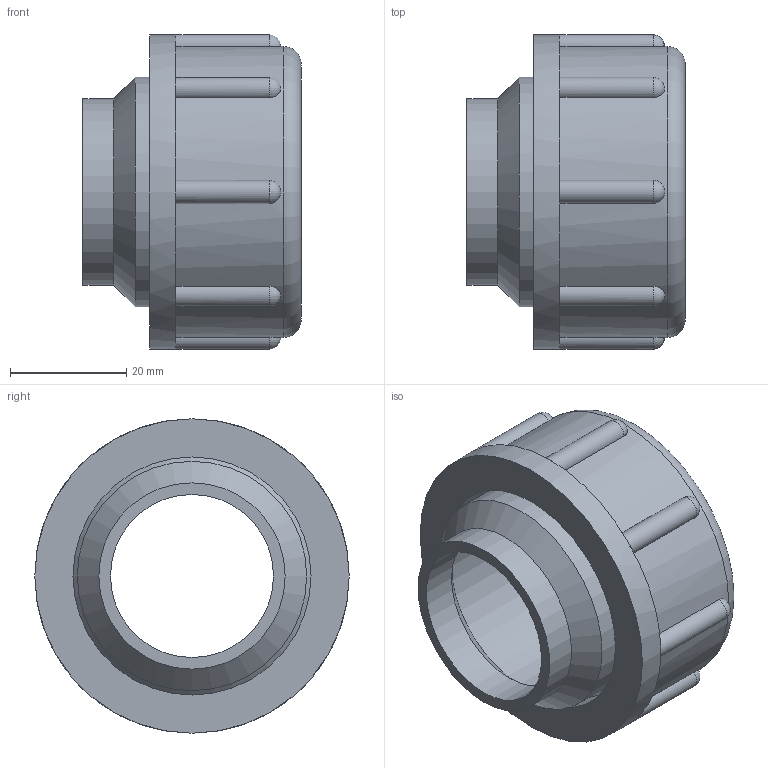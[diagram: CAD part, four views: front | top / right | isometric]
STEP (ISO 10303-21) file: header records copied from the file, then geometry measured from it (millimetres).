
FILE_DESCRIPTION((''),'2;1');
FILE_NAME('F:\Geberit_PE\Export\PE Verschraubung\stp\379740.stp','2011-03-17T20:57:21',(''),(''),'Autodesk Inventor 2011','Autodesk Inventor 2011','');
FILE_SCHEMA(('AUTOMOTIVE_DESIGN { 1 2 10303 214 0 1 1 1 }'));
Length unit declared in the file: millimetre
Products named in the file (1): 379740
Bounding box: 37.5 x 54 x 54 mm (x, y, z)
Volume: 32584.9 mm3; surface area: 15925.8 mm2
Topology: 2 solids, 2 shells, 51 faces, 141 edges, 85 vertices
Faces by surface type: cylinder 20, plane 14, cone 8, sphere 8, torus 1
Full cylindrical faces by diameter (mm): 28 x1, 32 x1, 32.5 x1, 33 x2, 39.4 x2, 40.5 x1, 40.9 x2, 50 x1, 54 x1
Entity records: 1660 total; most frequent: CARTESIAN_POINT 419, DIRECTION 272, ORIENTED_EDGE 216, AXIS2_PLACEMENT_3D 128, EDGE_CURVE 108, VERTEX_POINT 83, EDGE_LOOP 78, CIRCLE 76
